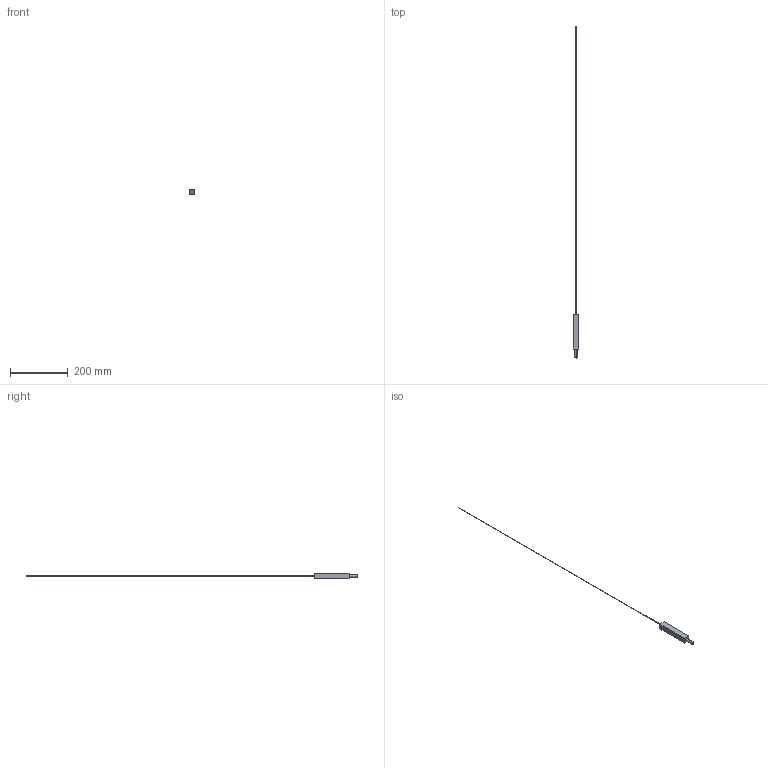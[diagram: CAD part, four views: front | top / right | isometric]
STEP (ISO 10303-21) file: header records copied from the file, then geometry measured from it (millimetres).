
FILE_DESCRIPTION (( 'STEP AP214' ), '1' );
FILE_NAME ('3D_LINESCAPES_VERTICAL_END.STEP', '2018-03-02T15:15:26', ( 'Utente' ), ( '' ), 'SwSTEP 2.0', 'SolidWorks 2016', '' );
FILE_SCHEMA (( 'AUTOMOTIVE_DESIGN' ));
Length unit declared in the file: millimetre
Products named in the file (4): TEC; CAVO1.2; ESTRUSO; 3D_LINESCAPES_VERTICAL_END
Assembly tree (3 placements, depth 2):
  3D_LINESCAPES_VERTICAL_END
    ESTRUSO
    CAVO1.2
    TEC
Bounding box: 20 x 1146 x 20 mm (x, y, z)
Volume: 51560.1 mm3; surface area: 15284.3 mm2
Topology: 3 solids, 3 shells, 14 faces, 24 edges, 16 vertices
Faces by surface type: plane 10, cylinder 4
Entity records: 490 total; most frequent: DIRECTION 72, CARTESIAN_POINT 60, ORIENTED_EDGE 48, AXIS2_PLACEMENT_3D 28, EDGE_CURVE 24, VERTEX_POINT 16, LINE 16, VECTOR 16
